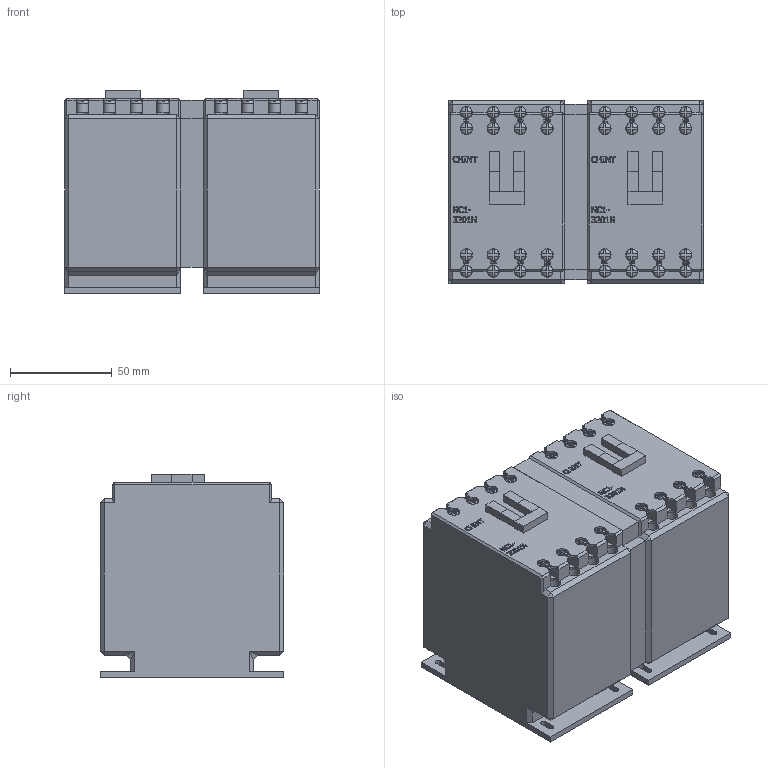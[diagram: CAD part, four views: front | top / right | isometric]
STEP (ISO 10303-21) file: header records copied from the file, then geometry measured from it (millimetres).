
FILE_DESCRIPTION(/* description */ (''),/* implementation_level */ '2;1');
FILE_NAME(/* name */ 'D:\CHINT2\NC1-N\NC1-3201N 230В 50Гц.stp',/* time_stamp */ '2017-11-12T20:39:37+03:00',/* author */ ('RSagdiev'),/* organization */ (''),/* preprocessor_version */ 'ST-DEVELOPER v16.5',/* originating_system */ 'Autodesk Inventor 2017',/* authorisation */ '');
FILE_SCHEMA (('AUTOMOTIVE_DESIGN { 1 0 10303 214 3 1 1 }'));
Products named in the file (1): NC1-3201N 230В 50Гц
Bounding box: 125 x 90 x 100 mm (x, y, z)
Volume: 1014218.5 mm3; surface area: 82435.7 mm2
Topology: 37 solids, 37 shells, 2168 faces, 5702 edges, 3720 vertices
Faces by surface type: plane 1578, bspline 494, cylinder 96
Full cylindrical faces by diameter (mm): 5.8 x16, 6 x32
Entity records: 71693 total; most frequent: CARTESIAN_POINT 21563, ORIENTED_EDGE 11308, DIRECTION 8392, EDGE_CURVE 5654, LINE 3866, VECTOR 3866, VERTEX_POINT 3720, EDGE_LOOP 2376
